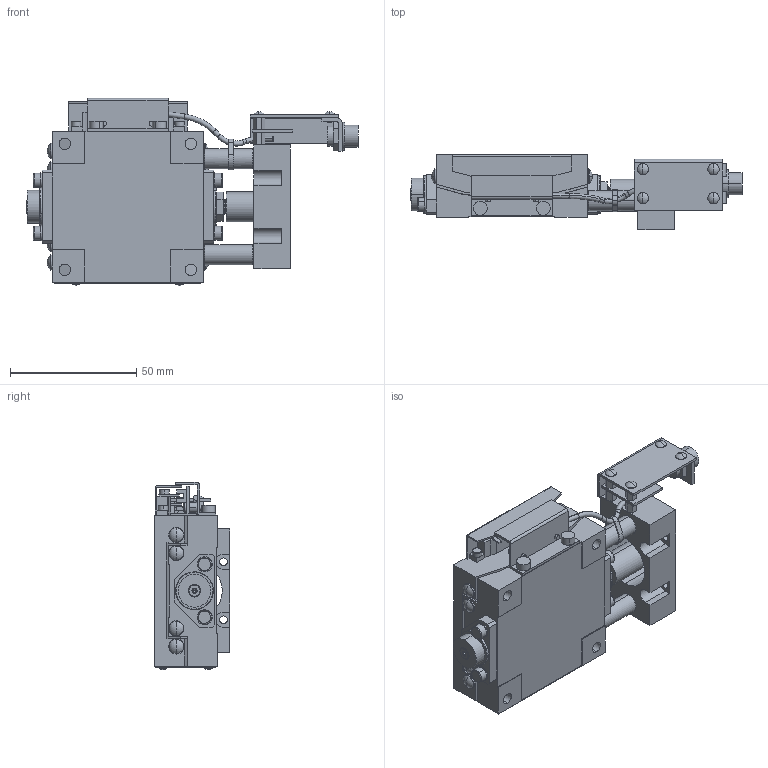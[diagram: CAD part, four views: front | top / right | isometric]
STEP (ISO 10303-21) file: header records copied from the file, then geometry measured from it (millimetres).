
FILE_DESCRIPTION (( 'STEP AP203' ), '1' );
FILE_NAME ('KGB06075MV-RP28.STEP', '2024-03-25T09:04:56', ( '' ), ( '' ), 'SwSTEP 2.0', 'SolidWorks 2017', '' );
FILE_SCHEMA (( 'CONFIG_CONTROL_DESIGN' ));
Length unit declared in the file: millimetre
Products named in the file (6): 60-P28_C; KGB-TOP-06075-R; KGB-60-P28_CADENAS; KGB06075MV-RP28; KGB-BASE-06075-R; 60-M-6-R
Assembly tree (5 placements, depth 2):
  KGB06075MV-RP28
    KGB-BASE-06075-R
    KGB-TOP-06075-R
    KGB-60-P28_CADENAS
    60-M-6-R
    60-P28_C
Bounding box: 131.7 x 30 x 74.3 mm (x, y, z)
Volume: 112155.2 mm3; surface area: 44038.5 mm2
Topology: 5 solids, 31 shells, 888 faces, 2119 edges, 1364 vertices
Faces by surface type: plane 375, cylinder 353, cone 80, sphere 36, torus 36, bspline 8
Entity records: 27168 total; most frequent: CARTESIAN_POINT 5149, DIRECTION 4792, ORIENTED_EDGE 4182, EDGE_CURVE 2091, AXIS2_PLACEMENT_3D 1847, VERTEX_POINT 1364, LINE 1098, VECTOR 1098
